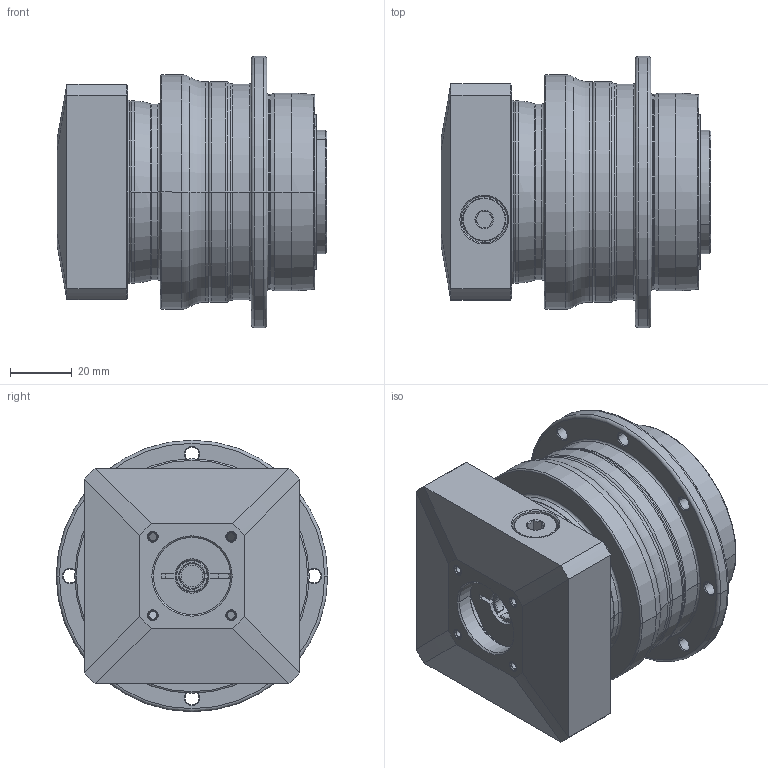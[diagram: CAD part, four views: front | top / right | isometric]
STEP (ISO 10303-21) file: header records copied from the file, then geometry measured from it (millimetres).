
FILE_DESCRIPTION((''),'2;1');
FILE_NAME('AH064_1ST_8-P0409100101_ASM','2016-07-20T',('d00435'),(''),'PRO/ENGINEER BY PARAMETRIC TECHNOLOGY CORPORATION, 2008410','PRO/ENGINEER BY PARAMETRIC TECHNOLOGY CORPORATION, 2008410','');
FILE_SCHEMA(('CONFIG_CONTROL_DESIGN'));
Length unit declared in the file: millimetre
Products named in the file (8): P0255200003; P0359200003; P1318200001; P0409100101; P0503100005; P0912200001; 21711410012; AH064_1ST_8-P0409100101_ASM
Assembly tree (7 placements, depth 2):
  AH064_1ST_8-P0409100101_ASM
    P0255200003
    P0359200003
    P1318200001
    P0409100101
    P0503100005
    P0912200001
    21711410012
Bounding box: 87.5 x 88 x 88 mm (x, y, z)
Volume: 306616.4 mm3; surface area: 78133.3 mm2
Topology: 8 solids, 30 shells, 566 faces, 1322 edges, 806 vertices
Faces by surface type: cylinder 232, cone 142, plane 110, torus 66, bspline 16
Entity records: 20982 total; most frequent: CARTESIAN_POINT 7663, DIRECTION 3029, ORIENTED_EDGE 2488, AXIS2_PLACEMENT_3D 1292, EDGE_CURVE 1288, VERTEX_POINT 806, CIRCLE 717, EDGE_LOOP 672
